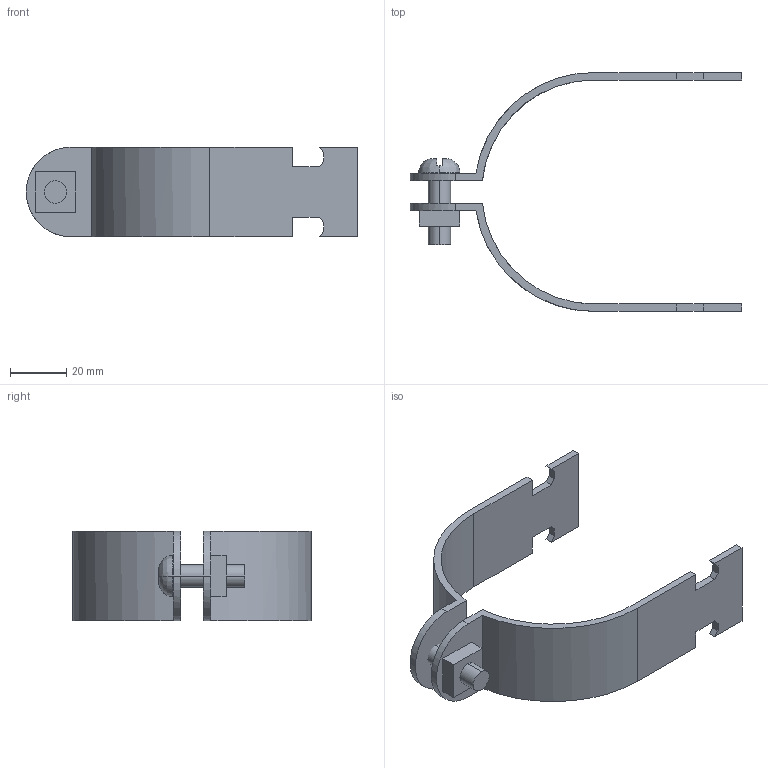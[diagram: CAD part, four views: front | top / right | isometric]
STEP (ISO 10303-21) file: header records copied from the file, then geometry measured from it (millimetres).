
FILE_DESCRIPTION(('TurboCAD Mac Pro'),'Build 980');
FILE_NAME('P2047.stp',' ',(''),(''),'ACIS Interop','IMSI','TurboCAD Mac Pro BY IMSI, INCORPORATED');
FILE_SCHEMA(('automotive_design'));
Length unit declared in the file: inch
Products named in the file (5): 1; 2; 3; 4; 5
Bounding box: 117.47 x 84.66 x 31.74 mm (x, y, z)
Volume: 24347.9 mm3; surface area: 20018.2 mm2
Topology: 4 solids, 4 shells, 75 faces, 194 edges, 128 vertices
Faces by surface type: plane 51, bspline 24
Entity records: 3579 total; most frequent: CARTESIAN_POINT 1122, ORIENTED_EDGE 388, DIRECTION 262, EDGE_CURVE 194, LINE 142, VECTOR 142, VERTEX_POINT 128, STYLED_ITEM 87
